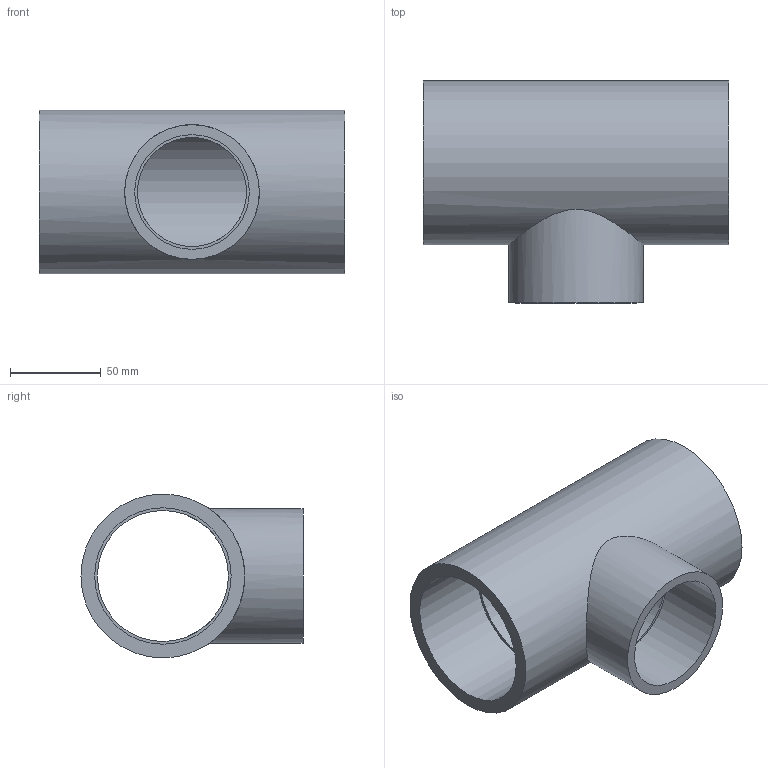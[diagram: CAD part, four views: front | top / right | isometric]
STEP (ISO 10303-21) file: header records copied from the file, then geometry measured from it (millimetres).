
FILE_DESCRIPTION(/* description */ ('PVC ti a 90° ridotto incollaggio metrico'),/* implementation_level */ '2;1');
FILE_NAME(/* name */ 'C:\Users\POLYPIPE\Desktop\DATASET INVENTOR\LIBRERIA EFFAST\RACCORDI 3DxWEB\RDR\3D_RDRTRD\3D_RDRTRD075G.stp',/* time_stamp */ '2018-01-19T15:48:37+01:00',/* author */ ('POLYPIPE'),/* organization */ ('Polypipe Italia s.r.l.'),/* preprocessor_version */ 'ST-DEVELOPER v16.1',/* originating_system */ 'Autodesk Inventor 2016',/* authorisation */ '');
FILE_SCHEMA (('CONFIG_CONTROL_DESIGN'));
Length unit declared in the file: millimetre
Products named in the file (1): 3D_RDRTRD
Bounding box: 168 x 122 x 90 mm (x, y, z)
Volume: 372621.6 mm3; surface area: 103448.4 mm2
Topology: 1 solids, 1 shells, 13 faces, 23 edges, 16 vertices
Faces by surface type: cylinder 7, plane 6
Full cylindrical faces by diameter (mm): 60 x1, 63 x1, 72 x1, 74 x1, 75 x2, 90 x1
Entity records: 430 total; most frequent: CARTESIAN_POINT 172, DIRECTION 52, EDGE_LOOP 28, ORIENTED_EDGE 28, AXIS2_PLACEMENT_3D 26, FACE_BOUND 15, VERTEX_POINT 14, EDGE_CURVE 14
